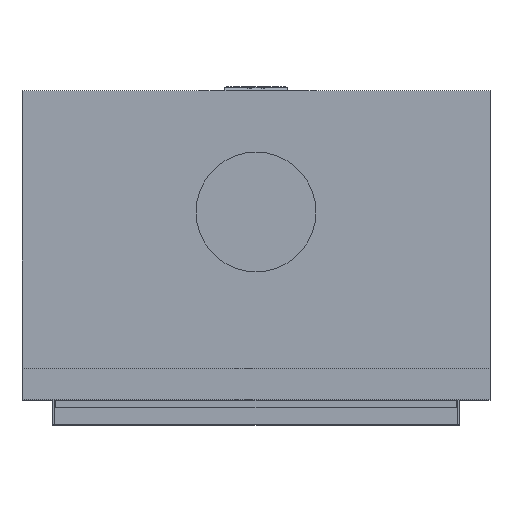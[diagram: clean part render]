
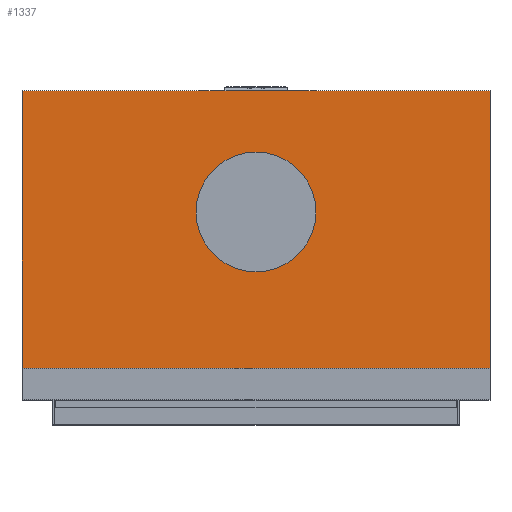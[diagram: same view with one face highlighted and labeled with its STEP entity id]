
A CAD part, top view. The second image highlights one B-rep face of the part: STEP entity #1337.
In plain terms, the highlighted planar face has unit normal (0, 0, 1).
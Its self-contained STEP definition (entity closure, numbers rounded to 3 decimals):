
#1337 = ADVANCED_FACE( '', ( #3504, #3505 ), #3506, .T. );
#3504 = FACE_OUTER_BOUND( '', #6665, .T. );
#3505 = FACE_BOUND( '', #6666, .T. );
#3506 = PLANE( '', #6667 );
#6665 = EDGE_LOOP( '', ( #10818, #10819, #10820, #10821 ) );
#6666 = EDGE_LOOP( '', ( #10822 ) );
#6667 = AXIS2_PLACEMENT_3D( '', #10823, #10824, #10825 );
#10818 = ORIENTED_EDGE( '', *, *, #20723, .T. );
#10819 = ORIENTED_EDGE( '', *, *, #20724, .F. );
#10820 = ORIENTED_EDGE( '', *, *, #20725, .F. );
#10821 = ORIENTED_EDGE( '', *, *, #20726, .T. );
#10822 = ORIENTED_EDGE( '', *, *, #20727, .F. );
#10823 = CARTESIAN_POINT( '', ( 390.5, -60.143, 1407.6 ) );
#10824 = DIRECTION( '', ( 0., 0., 1. ) );
#10825 = DIRECTION( '', ( 1., 0., 0. ) );
#20723 = EDGE_CURVE( '', #25106, #25107, #25108, .T. );
#20724 = EDGE_CURVE( '', #25109, #25107, #25110, .T. );
#20725 = EDGE_CURVE( '', #25111, #25109, #25112, .T. );
#20726 = EDGE_CURVE( '', #25111, #25106, #25113, .T. );
#20727 = EDGE_CURVE( '', #25114, #25114, #25115, .T. );
#25106 = VERTEX_POINT( '', #31507 );
#25107 = VERTEX_POINT( '', #31508 );
#25108 = LINE( '', #31509, #31510 );
#25109 = VERTEX_POINT( '', #31511 );
#25110 = LINE( '', #31512, #31513 );
#25111 = VERTEX_POINT( '', #31514 );
#25112 = LINE( '', #31515, #31516 );
#25113 = LINE( '', #31517, #31518 );
#25114 = VERTEX_POINT( '', #31519 );
#25115 = CIRCLE( '', #31520, 100. );
#31507 = CARTESIAN_POINT( '', ( 390.5, -60.143, 1407.6 ) );
#31508 = CARTESIAN_POINT( '', ( -390.5, -60.143, 1407.6 ) );
#31509 = CARTESIAN_POINT( '', ( 390.5, -60.143, 1407.6 ) );
#31510 = VECTOR( '', #40324, 1000. );
#31511 = CARTESIAN_POINT( '', ( -390.5, -523.257, 1407.6 ) );
#31512 = CARTESIAN_POINT( '', ( -390.5, -60.143, 1407.6 ) );
#31513 = VECTOR( '', #40325, 1000. );
#31514 = CARTESIAN_POINT( '', ( 390.5, -523.257, 1407.6 ) );
#31515 = CARTESIAN_POINT( '', ( 390.5, -523.257, 1407.6 ) );
#31516 = VECTOR( '', #40326, 1000. );
#31517 = CARTESIAN_POINT( '', ( 390.5, -60.143, 1407.6 ) );
#31518 = VECTOR( '', #40327, 1000. );
#31519 = CARTESIAN_POINT( '', ( -100., -262.501, 1407.6 ) );
#31520 = AXIS2_PLACEMENT_3D( '', #40328, #40329, #40330 );
#40324 = DIRECTION( '', ( -1., 0., 0. ) );
#40325 = DIRECTION( '', ( 0., 1., 0. ) );
#40326 = DIRECTION( '', ( -1., 0., 0. ) );
#40327 = DIRECTION( '', ( 0., 1., 0. ) );
#40328 = CARTESIAN_POINT( '', ( 0., -262.501, 1407.6 ) );
#40329 = DIRECTION( '', ( 0., 0., 1. ) );
#40330 = DIRECTION( '', ( -1., 0., 0. ) );
